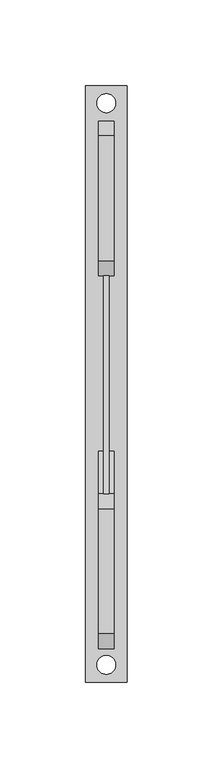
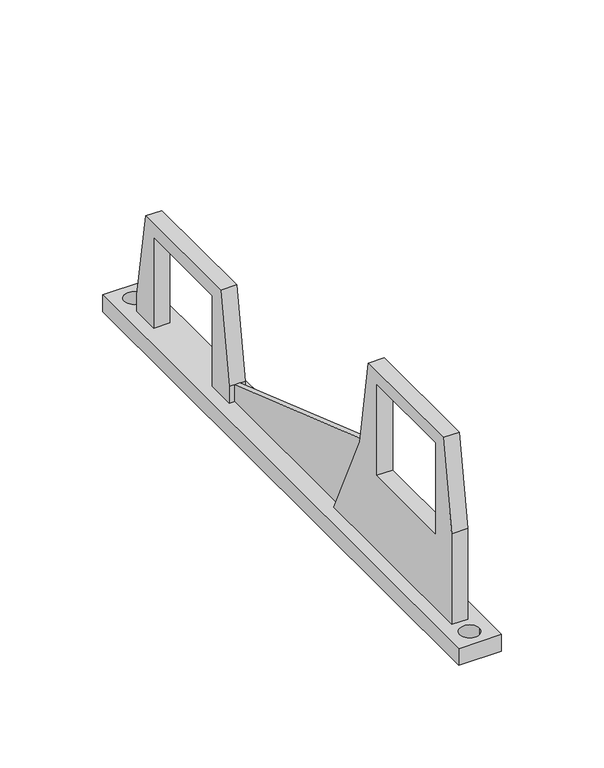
"""IFC4 building model written with IfcOpenShell, lengths in millimetres: proxy geometry, 400_56_KOMF_montagebeugel_2 : 400_56_KOMF_montagebeugel_2."""

from ifc_helpers import new_model, si_unit, point, frame, frame_2d, origin, origin_with_axes, origin_2d, place, context, project, spatial, polyline, circle_curve, trimmed, segment, composite_curve, outline, extrude, source, transform, mapped, element, save


def mechanical_equipment_e809440a(model_context):
    return source(origin(), model_context, "Body", "SweptSolid", [
        extrude(outline(polyline([(124.6806135, 10.0), (99.5, 64.0), (226.5, 20.0014318), (226.5, 10.0), (124.6806135, 10.0)])), frame((-1.5, 0.0, 0.0), z_axis=(1.0, 0.0, 0.0), x_axis=(0.0, 1.0, 0.0)), (0.0, 0.0, 1.0), 3.0),
        extrude(outline(polyline([(243.0, 10.0014318), (226.5, 10.0014318), (226.5, 20.0014318), (235.0, 72.0014318), (308.0, 72.0014318), (316.5, 20.0014318), (316.5, 10.0014318), (300.0, 10.0014318), (300.0, 64.0014318), (243.0, 64.0014318), (243.0, 10.0014318)])), frame((-4.5, 0.0, 0.0), z_axis=(1.0, 0.0, 0.0), x_axis=(0.0, 1.0, 0.0)), (0.0, 0.0, 1.0), 9.0),
        extrude(outline(polyline([(18.0, 116.0), (91.0, 116.0), (99.5, 64.0), (124.5, 10.0), (9.5, 10.0), (9.5, 64.0), (18.0, 116.0)]), holes=[polyline([(26.0, 54.0), (83.0, 54.0), (83.0, 108.0), (26.0, 108.0), (26.0, 54.0)])]), frame((-4.5, 0.0, 0.0), z_axis=(1.0, 0.0, 0.0), x_axis=(0.0, 1.0, 0.0)), (0.0, 0.0, 1.0), 9.0),
        extrude(outline(polyline([(-12.0, -10.0), (-12.0, 337.0), (12.0, 337.0), (12.0, -10.0), (-12.0, -10.0)]), holes=[composite_curve([segment(trimmed(circle_curve(origin_2d(), 5.5), [point((5.5, 0.0))], [point((-5.5, 0.0))], True, "CARTESIAN"), True, "CONTINUOUS"), segment(trimmed(circle_curve(origin_2d(), 5.5), [point((-5.5, 0.0))], [point((5.5, 0.0))], True, "CARTESIAN"), True, "CONTINUOUS")], self_intersect=False), composite_curve([segment(trimmed(circle_curve(frame_2d((0.0, 327.0)), 5.5), [point((-5.5, 327.0))], [point((5.5, 327.0))], True, "CARTESIAN"), True, "CONTINUOUS"), segment(trimmed(circle_curve(frame_2d((0.0, 327.0)), 5.5), [point((5.5, 327.0))], [point((-5.5, 327.0))], True, "CARTESIAN"), True, "CONTINUOUS")], self_intersect=False)]), origin_with_axes(), (0.0, 0.0, 1.0), 10.0),
    ])


if __name__ == "__main__":
    model = new_model("IFC4")
    model_context = context("Model", 3, world=origin())
    ifc_project = project(units=[si_unit("LENGTHUNIT", "METRE", prefix="MILLI")], contexts=[model_context])
    site = spatial("IfcSite", under=ifc_project)
    building = spatial("IfcBuilding", under=site)
    placement = place(None, origin())
    mechanical_equipment_shape = mechanical_equipment_e809440a(model_context)
    element("IfcBuildingElementProxy", 1, Name="400_56_KOMF_montagebeugel_2 : 400_56_KOMF_montagebeugel_2", ObjectType="400_56_KOMF_montagebeugel_2 : 400_56_KOMF_montagebeugel_2", at=placement, inside=building, context=model_context, shape_type="MappedRepresentation", body=[
        mapped(mechanical_equipment_shape, transform((0.0, 0.0, 0.0), x_axis=(1.0, 0.0, 0.0), y_axis=(0.0, 1.0, 0.0), z_axis=(0.0, 0.0, 1.0))),
    ])
    save(model, "model.ifc")
